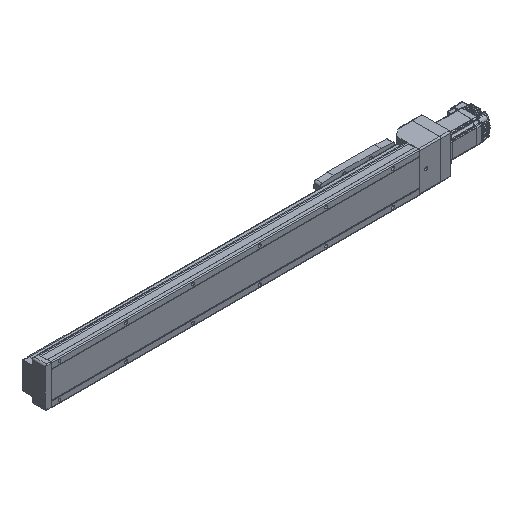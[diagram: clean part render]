
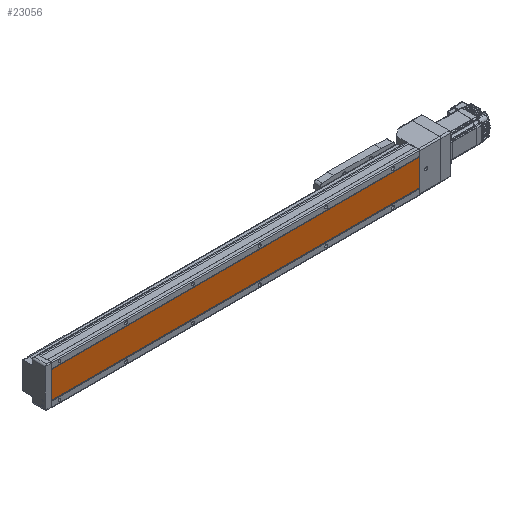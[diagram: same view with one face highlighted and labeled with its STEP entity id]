
A CAD part, isometric view. The second image highlights one B-rep face of the part: STEP entity #23056.
In plain terms, the highlighted planar face has unit normal (0, -1, 0).
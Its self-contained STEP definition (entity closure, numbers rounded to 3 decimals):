
#1454 = VERTEX_POINT ( 'NONE', #2281 ) ;
#2221 = LINE ( 'NONE', #20005, #34462 ) ;
#2281 = CARTESIAN_POINT ( 'NONE',  ( 29.843, 1., 828. ) ) ;
#3260 = ORIENTED_EDGE ( 'NONE', *, *, #33289, .T. ) ;
#6953 = ORIENTED_EDGE ( 'NONE', *, *, #25723, .T. ) ;
#8234 = DIRECTION ( 'NONE',  ( 0., 0., 1. ) ) ;
#11472 = AXIS2_PLACEMENT_3D ( 'NONE', #47881, #48161, #8234 ) ;
#13822 = LINE ( 'NONE', #31558, #14790 ) ;
#14068 = CARTESIAN_POINT ( 'NONE',  ( -29.843, 1., 828. ) ) ;
#14790 = VECTOR ( 'NONE', #45567, 1000. ) ;
#15226 = VERTEX_POINT ( 'NONE', #40679 ) ;
#15605 = VECTOR ( 'NONE', #31817, 1000. ) ;
#15874 = VERTEX_POINT ( 'NONE', #34196 ) ;
#16643 = EDGE_LOOP ( 'NONE', ( #52220, #6953, #3260, #23246 ) ) ;
#20005 = CARTESIAN_POINT ( 'NONE',  ( 29.843, 1., 1378. ) ) ;
#23056 = ADVANCED_FACE ( 'NONE', ( #43194 ), #30629, .F. ) ;
#23246 = ORIENTED_EDGE ( 'NONE', *, *, #30957, .F. ) ;
#23378 = LINE ( 'NONE', #14068, #15605 ) ;
#23489 = DIRECTION ( 'NONE',  ( 0., 0., -1. ) ) ;
#24186 = VERTEX_POINT ( 'NONE', #45489 ) ;
#25723 = EDGE_CURVE ( 'NONE', #15874, #15226, #40168, .T. ) ;
#30629 = PLANE ( 'NONE',  #11472 ) ;
#30957 = EDGE_CURVE ( 'NONE', #1454, #24186, #2221, .T. ) ;
#31431 = DIRECTION ( 'NONE',  ( 0., 0., -1. ) ) ;
#31558 = CARTESIAN_POINT ( 'NONE',  ( -29.843, 1., 0. ) ) ;
#31817 = DIRECTION ( 'NONE',  ( 1., 0., 0. ) ) ;
#33289 = EDGE_CURVE ( 'NONE', #15226, #24186, #13822, .T. ) ;
#34196 = CARTESIAN_POINT ( 'NONE',  ( -29.843, 1., 828. ) ) ;
#34462 = VECTOR ( 'NONE', #23489, 1000. ) ;
#35239 = CARTESIAN_POINT ( 'NONE',  ( -29.843, 1., 1378. ) ) ;
#40168 = LINE ( 'NONE', #35239, #47886 ) ;
#40679 = CARTESIAN_POINT ( 'NONE',  ( -29.843, 1., 0. ) ) ;
#43194 = FACE_OUTER_BOUND ( 'NONE', #16643, .T. ) ;
#45489 = CARTESIAN_POINT ( 'NONE',  ( 29.843, 1., 0. ) ) ;
#45567 = DIRECTION ( 'NONE',  ( 1., 0., 0. ) ) ;
#45721 = EDGE_CURVE ( 'NONE', #15874, #1454, #23378, .T. ) ;
#47881 = CARTESIAN_POINT ( 'NONE',  ( -29.843, 1., 1378. ) ) ;
#47886 = VECTOR ( 'NONE', #31431, 1000. ) ;
#48161 = DIRECTION ( 'NONE',  ( 0., 1., 0. ) ) ;
#52220 = ORIENTED_EDGE ( 'NONE', *, *, #45721, .F. ) ;
